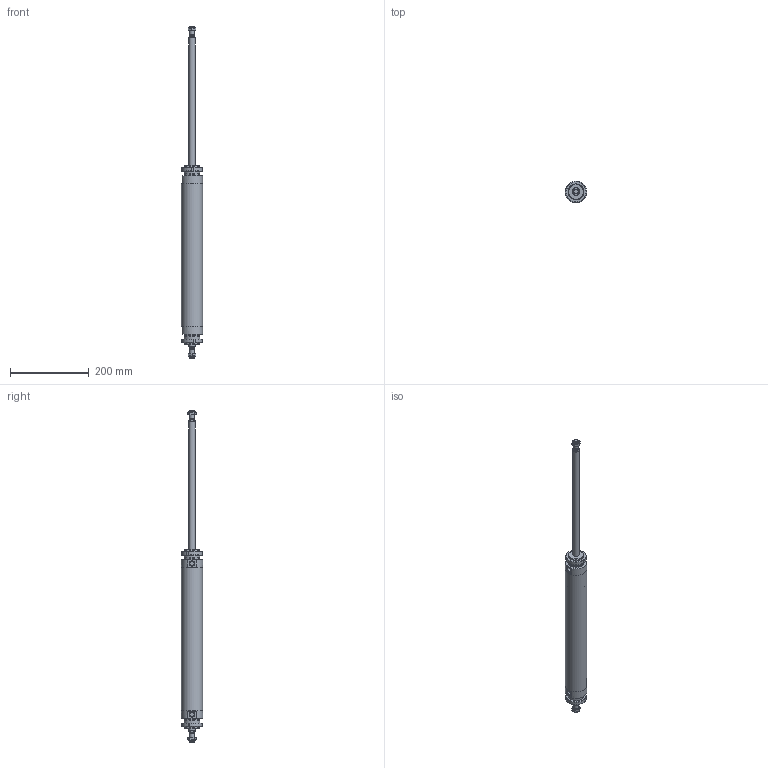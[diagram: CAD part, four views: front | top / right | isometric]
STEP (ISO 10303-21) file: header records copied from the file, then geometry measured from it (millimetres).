
FILE_DESCRIPTION(/* description */ (''),/* implementation_level */ '2;1');
FILE_NAME(/* name */ 'I:\Area Tecnica\Documenti\A-Manieri\_Inventor\12X\12X#S_###_####_#_#\12XCS_050_0320_#_#.stp',/* time_stamp */ '2015-05-08T14:19:17+02:00',/* author */ ('maniean1'),/* organization */ ('Pneumax S.p.A.'),/* preprocessor_version */ 'ST-DEVELOPER v15.2',/* originating_system */ 'Autodesk Inventor 2014',/* authorisation */ '');
FILE_SCHEMA (('AUTOMOTIVE_DESIGN { 1 0 10303 214 3 1 1 }'));
Length unit declared in the file: millimetre
Products named in the file (6): C1250_619-0320; 12X50_604; SP12X50_0320; 12X_50_11; G12X_050_05; 12XCS_050_0320_#_#
Bounding box: 54 x 54 x 842 mm (x, y, z)
Volume: 511573 mm3; surface area: 205764.7 mm2
Topology: 8 solids, 8 shells, 133 faces, 303 edges, 194 vertices
Faces by surface type: plane 66, cone 34, cylinder 33
Full cylindrical faces by diameter (mm): 10.2 x2, 11.4 x2, 12 x4, 14 x2, 15.6 x2, 16 x2, 38.2 x2, 40 x6, 50 x2, 54 x3
Entity records: 2300 total; most frequent: CARTESIAN_POINT 435, DIRECTION 388, ORIENTED_EDGE 310, AXIS2_PLACEMENT_3D 166, EDGE_CURVE 155, EDGE_LOOP 130, VERTEX_POINT 117, ADVANCED_FACE 85
